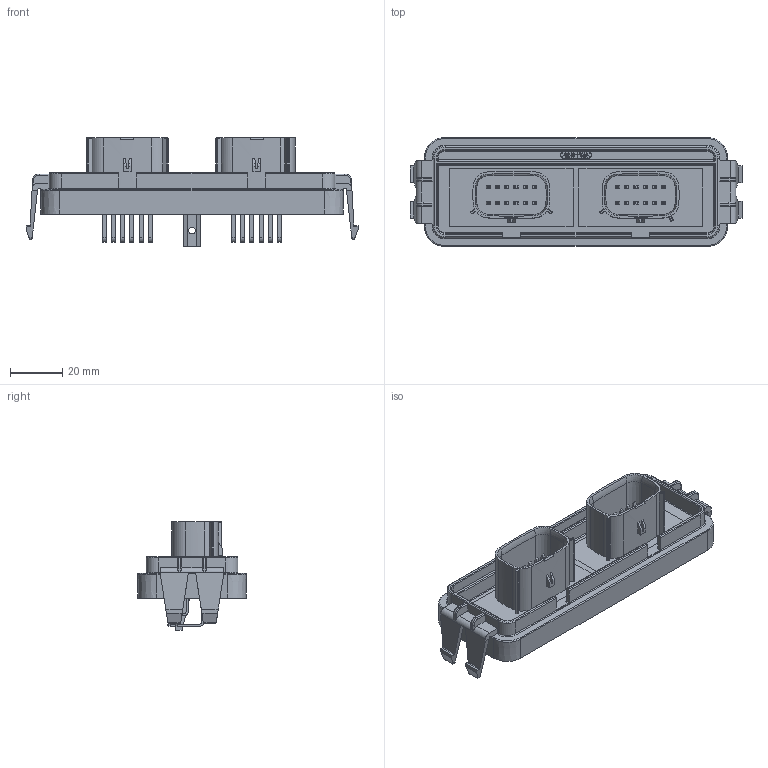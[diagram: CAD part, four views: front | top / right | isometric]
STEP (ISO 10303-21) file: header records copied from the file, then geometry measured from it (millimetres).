
FILE_DESCRIPTION((''),'2;1');
FILE_NAME('5810124011_ASM','2019-03-01T',('michael.hyrc'),(''),'PRO/ENGINEER BY PARAMETRIC TECHNOLOGY CORPORATION, 2014200','PRO/ENGINEER BY PARAMETRIC TECHNOLOGY CORPORATION, 2014200','');
FILE_SCHEMA(('CONFIG_CONTROL_DESIGN'));
Length unit declared in the file: inch
Products named in the file (10): 4741170136_MX_ME_L12B-R12A_AF0; MOLEX-ME-A-12W_AF1; MOLEX-ME-A-12W_AF0_ASM; MOLEX-ME-B-12W_AF1; MOLEX-ME-B-12W_AF0_ASM; 4828770273-ME-MX-L12B-R12A_ASM; 4040011260_TYPE4; 4040011261_TYPE5; ME-MX-12W-POTTING; 5810124011_ASM
Assembly tree (32 placements, depth 4):
  5810124011_ASM
    4828770273-ME-MX-L12B-R12A_ASM
      4741170136_MX_ME_L12B-R12A_AF0
      MOLEX-ME-A-12W_AF0_ASM
        MOLEX-ME-A-12W_AF1
      MOLEX-ME-B-12W_AF0_ASM
        MOLEX-ME-B-12W_AF1
    4040011260_TYPE4  x12
    4040011261_TYPE5  x12
    ME-MX-12W-POTTING  x2
Bounding box: 126.6 x 41.34 x 41.26 mm (x, y, z)
Volume: 34847 mm3; surface area: 46613.9 mm2
Topology: 29 solids, 29 shells, 2630 faces, 7106 edges, 4588 vertices
Faces by surface type: plane 1993, cylinder 406, extrusion 116, torus 60, cone 40, sphere 11, bspline 4
Entity records: 55174 total; most frequent: CARTESIAN_POINT 11001, ORIENTED_EDGE 9482, DIRECTION 8342, EDGE_CURVE 4741, VECTOR 4046, LINE 3930, VERTEX_POINT 3076, AXIS2_PLACEMENT_3D 2148
